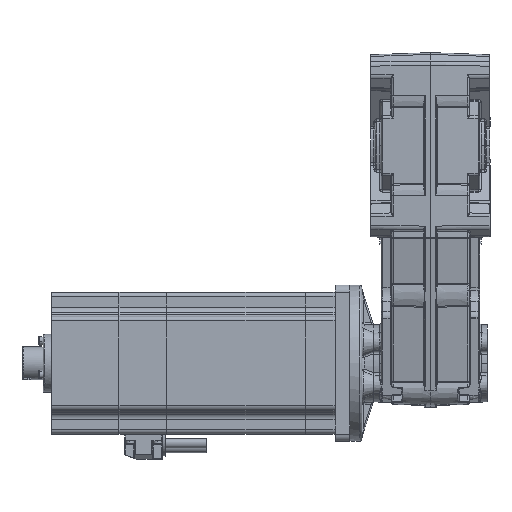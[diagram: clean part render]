
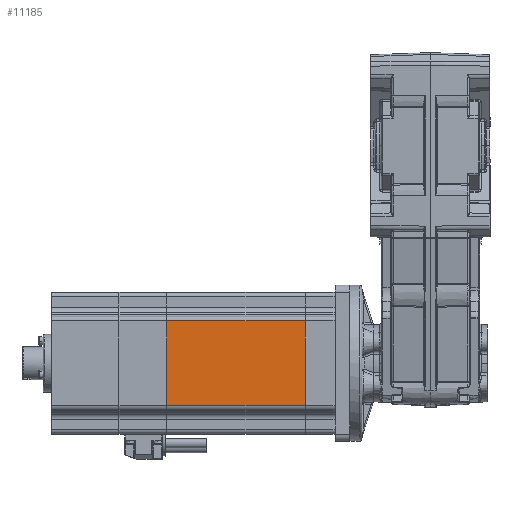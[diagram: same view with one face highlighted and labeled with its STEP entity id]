
A CAD part, left-side view. The second image highlights one B-rep face of the part: STEP entity #11185.
In plain terms, the highlighted planar face has unit normal (-1, 0, 0).
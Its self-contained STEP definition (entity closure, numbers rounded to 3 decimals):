
#1095 = CARTESIAN_POINT ( 'NONE',  ( -47.5, -93., -28.48 ) ) ;
#1638 = ORIENTED_EDGE ( 'NONE', *, *, #113049, .T. ) ;
#1670 = LINE ( 'NONE', #1095, #63300 ) ;
#2244 = VERTEX_POINT ( 'NONE', #58353 ) ;
#2907 = VERTEX_POINT ( 'NONE', #108188 ) ;
#2969 = LINE ( 'NONE', #22185, #11829 ) ;
#11185 = ADVANCED_FACE ( 'NONE', ( #89850 ), #20010, .T. ) ;
#11829 = VECTOR ( 'NONE', #101306, 1000. ) ;
#11877 = VECTOR ( 'NONE', #50744, 1000. ) ;
#14339 = EDGE_CURVE ( 'NONE', #91953, #2907, #1670, .T. ) ;
#18193 = ORIENTED_EDGE ( 'NONE', *, *, #29993, .F. ) ;
#20010 = PLANE ( 'NONE',  #41704 ) ;
#22185 = CARTESIAN_POINT ( 'NONE',  ( -47.5, -93., -31.48 ) ) ;
#25092 = CARTESIAN_POINT ( 'NONE',  ( -47.5, 0., -31.48 ) ) ;
#27252 = CARTESIAN_POINT ( 'NONE',  ( -47.5, 0., -28.48 ) ) ;
#29993 = EDGE_CURVE ( 'NONE', #91953, #2244, #33815, .T. ) ;
#32803 = ORIENTED_EDGE ( 'NONE', *, *, #14339, .T. ) ;
#32856 = VECTOR ( 'NONE', #63942, 1000. ) ;
#32973 = EDGE_LOOP ( 'NONE', ( #18193, #32803, #1638, #115095 ) ) ;
#33815 = LINE ( 'NONE', #25092, #11877 ) ;
#34851 = EDGE_CURVE ( 'NONE', #112435, #2244, #108713, .T. ) ;
#41704 = AXIS2_PLACEMENT_3D ( 'NONE', #82830, #45637, #72975 ) ;
#45637 = DIRECTION ( 'NONE',  ( -1., 0., 0. ) ) ;
#50744 = DIRECTION ( 'NONE',  ( 0., 0., 1. ) ) ;
#55801 = DIRECTION ( 'NONE',  ( 0., -1., 0. ) ) ;
#58353 = CARTESIAN_POINT ( 'NONE',  ( -47.5, 0., 28.48 ) ) ;
#63300 = VECTOR ( 'NONE', #55801, 1000. ) ;
#63942 = DIRECTION ( 'NONE',  ( 0., 1., 0. ) ) ;
#72975 = DIRECTION ( 'NONE',  ( 0., 1., 0. ) ) ;
#80274 = CARTESIAN_POINT ( 'NONE',  ( -47.5, -93., 28.48 ) ) ;
#82830 = CARTESIAN_POINT ( 'NONE',  ( -47.5, -93., -31.48 ) ) ;
#83670 = CARTESIAN_POINT ( 'NONE',  ( -47.5, -93., 28.48 ) ) ;
#89850 = FACE_OUTER_BOUND ( 'NONE', #32973, .T. ) ;
#91953 = VERTEX_POINT ( 'NONE', #27252 ) ;
#101306 = DIRECTION ( 'NONE',  ( 0., 0., 1. ) ) ;
#108188 = CARTESIAN_POINT ( 'NONE',  ( -47.5, -93., -28.48 ) ) ;
#108713 = LINE ( 'NONE', #83670, #32856 ) ;
#112435 = VERTEX_POINT ( 'NONE', #80274 ) ;
#113049 = EDGE_CURVE ( 'NONE', #2907, #112435, #2969, .T. ) ;
#115095 = ORIENTED_EDGE ( 'NONE', *, *, #34851, .T. ) ;
